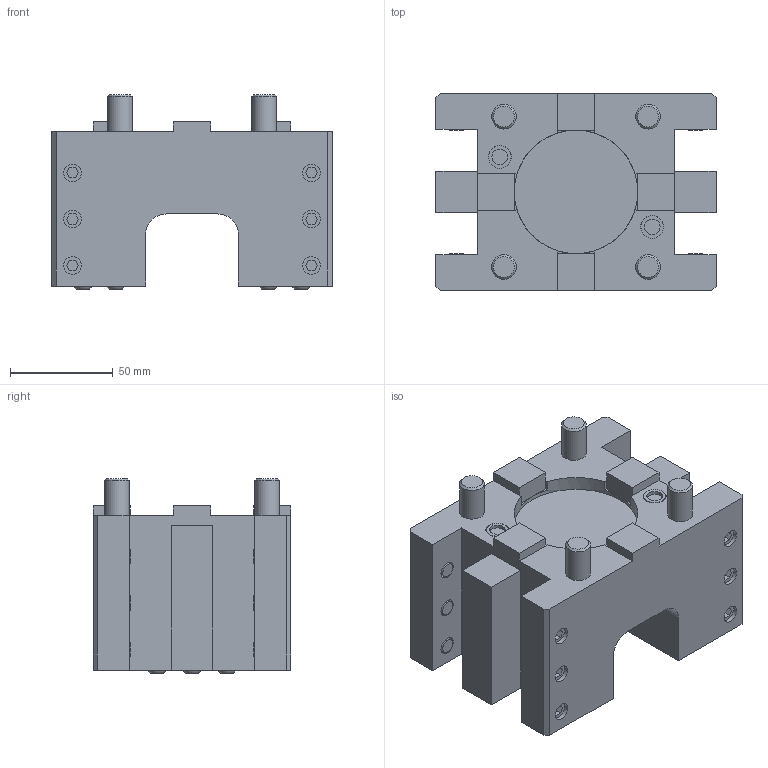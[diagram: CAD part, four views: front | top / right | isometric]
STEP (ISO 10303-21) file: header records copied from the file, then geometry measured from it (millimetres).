
FILE_DESCRIPTION(/* description */ (''),/* implementation_level */ '2;1');
FILE_NAME(/* name */ '197960-UNI',/* time_stamp */ '2022-02-09T11:24:05+01:00',/* author */ (''),/* organization */ (''),/* preprocessor_version */ 'ST-DEVELOPER v16.5',/* originating_system */ 'HiCAD 2017 2201.0 Build 268',/* authorisation */ '');
FILE_SCHEMA (('AUTOMOTIVE_DESIGN { 1 0 10303 214 1 1 1 1 }'));
Length unit declared in the file: millimetre
Products named in the file (2): Root; Teil
Assembly tree (1 placements, depth 2):
  Root
    Teil
Bounding box: 136 x 96 x 94.66 mm (x, y, z)
Volume: 688660.1 mm3; surface area: 89370.1 mm2
Topology: 1 solids, 1 shells, 345 faces, 798 edges, 521 vertices
Faces by surface type: plane 252, cylinder 63, cone 20, sphere 6, torus 4
Full cylindrical faces by diameter (mm): 5 x6, 7 x12, 7.65 x2, 8.5 x24, 11.01 x2, 11.1 x2, 12 x4, 18 x4, 20 x4, 60 x1
Entity records: 15539 total; most frequent: DIRECTION 1538, CARTESIAN_POINT 1491, PRESENTATION_STYLE_ASSIGNMENT 1327, COLOUR_RGB 1327, DRAUGHTING_PRE_DEFINED_CURVE_FONT 1326, CURVE_STYLE 1326, OVER_RIDING_STYLED_ITEM 1326, ORIENTED_EDGE 1326
